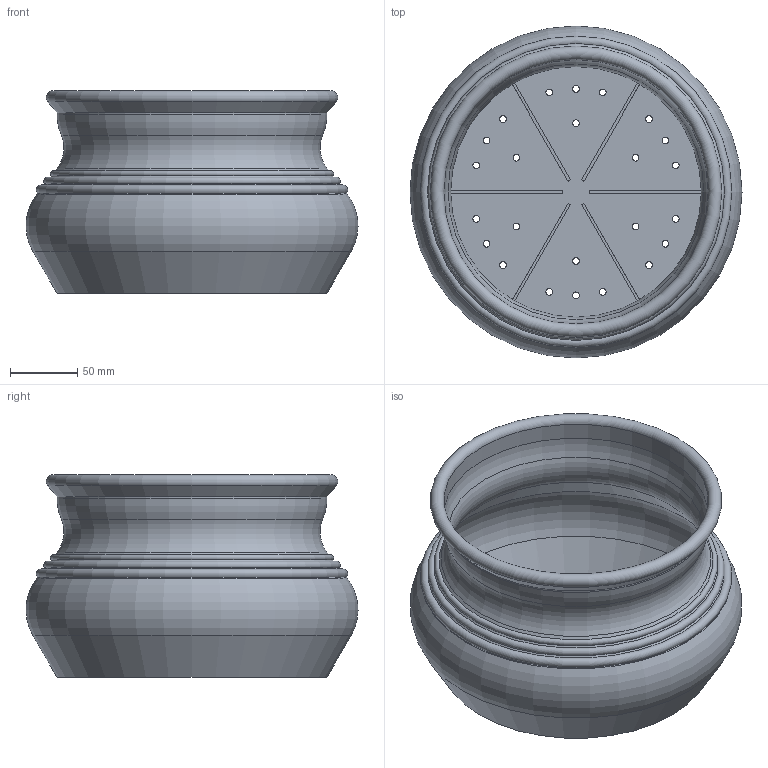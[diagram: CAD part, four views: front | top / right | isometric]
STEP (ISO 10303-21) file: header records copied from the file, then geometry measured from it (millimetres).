
FILE_DESCRIPTION(/* description */ (''),/* implementation_level */ '2;1');
FILE_NAME(/* name */ 'LR2406-S20-H150-D250_step.step',/* time_stamp */ '2024-02-01T11:01:09+01:00',/* author */ (''),/* organization */ (''),/* preprocessor_version */ 'ST-DEVELOPER v20',/* originating_system */ 'Autodesk Translation Framework v12.20.1.177',/* authorisation */ '');
FILE_SCHEMA (('AUTOMOTIVE_DESIGN { 1 0 10303 214 3 1 1 }'));
Length unit declared in the file: millimetre
Products named in the file (1): LR2406-S20-H150-D250
Bounding box: 245.99 x 245.99 x 150 mm (x, y, z)
Volume: 355146.7 mm3; surface area: 297751.3 mm2
Topology: 1 solids, 1 shells, 70 faces, 185 edges, 117 vertices
Faces by surface type: cylinder 32, plane 20, torus 10, cone 8
Full cylindrical faces by diameter (mm): 5 x24, 196 x1, 200 x1
Entity records: 2336 total; most frequent: DIRECTION 430, CARTESIAN_POINT 373, ORIENTED_EDGE 370, EDGE_CURVE 185, AXIS2_PLACEMENT_3D 174, EDGE_LOOP 118, VERTEX_POINT 117, CIRCLE 103
